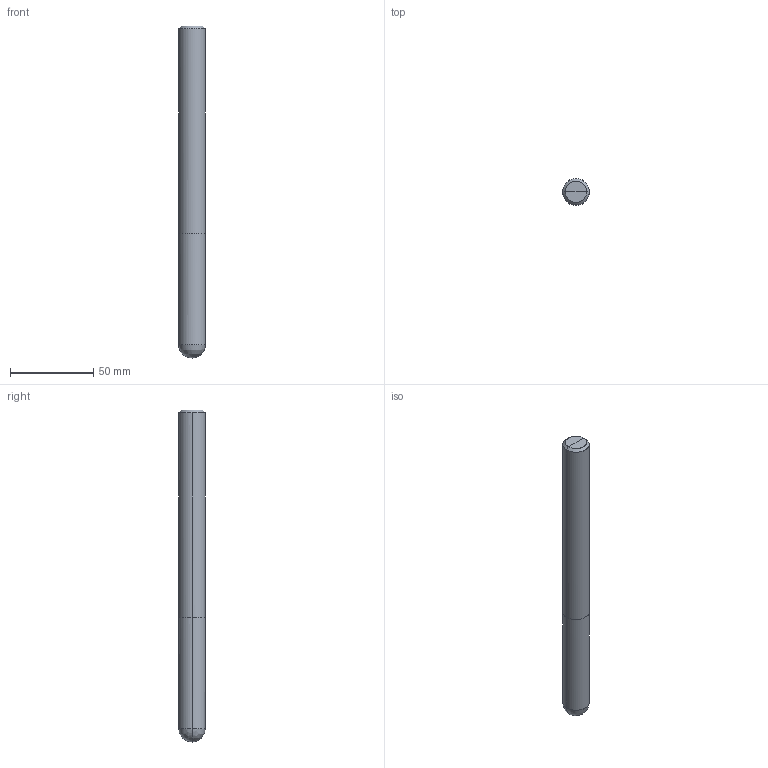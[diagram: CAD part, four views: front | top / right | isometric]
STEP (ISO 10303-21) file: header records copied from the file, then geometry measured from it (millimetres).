
FILE_DESCRIPTION(/* description */ (''),/* implementation_level */ '2;1');
FILE_NAME(/*name*/ '4002-16',/*time_stamp*/'2021-6-28T14:19:11',/*author*/ ('ISBE GmbH'),/*organization*/ ('ISBE GmbH'),/*preprocessor_version*/ 'STEP IO v1.0',/*originating_system*/ '',/*authorisation*/ '');
FILE_SCHEMA (('AUTOMOTIVE_DESIGN'));
Length unit declared in the file: millimetre
Products named in the file (1): Document
Bounding box: 16 x 15.98 x 200 mm (x, y, z)
Surface area: 10620.8 mm2 (no closed solid volume)
Topology: 0 solids, 14 shells, 14 faces, 60 edges, 56 vertices
Faces by surface type: bspline 14
Entity records: 3207 total; most frequent: CARTESIAN_POINT 2934, VERTEX_POINT 48, EDGE_CURVE 48, ORIENTED_EDGE 48, DIRECTION 16, EDGE_LOOP 14, FACE_OUTER_BOUND 14, ADVANCED_FACE 14
